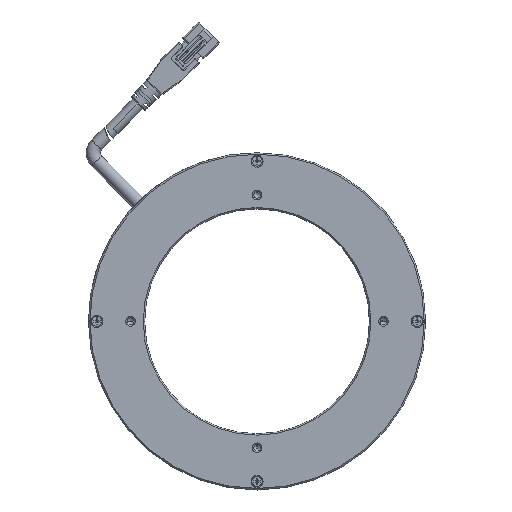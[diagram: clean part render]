
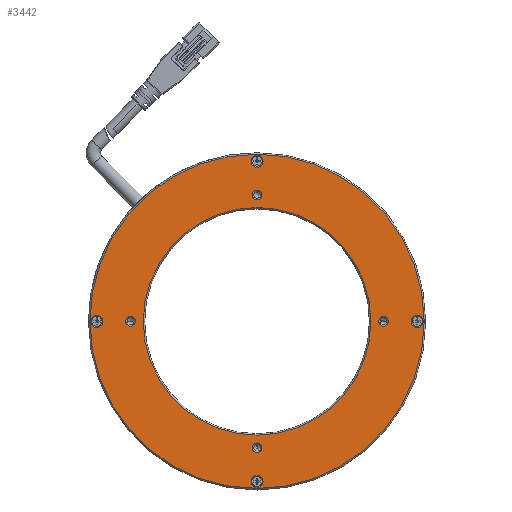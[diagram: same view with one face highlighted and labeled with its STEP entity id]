
A CAD part, top view. The second image highlights one B-rep face of the part: STEP entity #3442.
In plain terms, the highlighted planar face has unit normal (0, 0, 1).
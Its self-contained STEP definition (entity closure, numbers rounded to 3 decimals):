
#323=CARTESIAN_POINT('',(0.,0.,2.));
#324=DIRECTION('',(0.,0.,-1.));
#325=DIRECTION('',(-1.,0.,0.));
#326=AXIS2_PLACEMENT_3D('',#323,#324,#325);
#328=CARTESIAN_POINT('',(0.,0.,2.));
#329=DIRECTION('',(0.,0.,-1.));
#330=DIRECTION('',(1.,0.,0.));
#331=AXIS2_PLACEMENT_3D('',#328,#329,#330);
#333=CARTESIAN_POINT('',(45.,0.,2.));
#334=DIRECTION('',(0.,0.,-1.));
#335=DIRECTION('',(-1.,0.,0.));
#336=AXIS2_PLACEMENT_3D('',#333,#334,#335);
#338=CARTESIAN_POINT('',(45.,0.,2.));
#339=DIRECTION('',(0.,0.,-1.));
#340=DIRECTION('',(1.,0.,0.));
#341=AXIS2_PLACEMENT_3D('',#338,#339,#340);
#343=CARTESIAN_POINT('',(0.,-45.,2.));
#344=DIRECTION('',(0.,0.,-1.));
#345=DIRECTION('',(0.,1.,0.));
#346=AXIS2_PLACEMENT_3D('',#343,#344,#345);
#348=CARTESIAN_POINT('',(0.,-45.,2.));
#349=DIRECTION('',(0.,0.,-1.));
#350=DIRECTION('',(0.,-1.,0.));
#351=AXIS2_PLACEMENT_3D('',#348,#349,#350);
#353=CARTESIAN_POINT('',(-45.,0.,2.));
#354=DIRECTION('',(0.,0.,-1.));
#355=DIRECTION('',(1.,0.,0.));
#356=AXIS2_PLACEMENT_3D('',#353,#354,#355);
#358=CARTESIAN_POINT('',(-45.,0.,2.));
#359=DIRECTION('',(0.,0.,-1.));
#360=DIRECTION('',(-1.,0.,0.));
#361=AXIS2_PLACEMENT_3D('',#358,#359,#360);
#363=CARTESIAN_POINT('',(0.,45.,2.));
#364=DIRECTION('',(0.,0.,-1.));
#365=DIRECTION('',(0.,-1.,0.));
#366=AXIS2_PLACEMENT_3D('',#363,#364,#365);
#368=CARTESIAN_POINT('',(0.,45.,2.));
#369=DIRECTION('',(0.,0.,-1.));
#370=DIRECTION('',(0.,1.,0.));
#371=AXIS2_PLACEMENT_3D('',#368,#369,#370);
#373=CARTESIAN_POINT('',(-57.,0.,2.));
#374=DIRECTION('',(0.,0.,-1.));
#375=DIRECTION('',(-1.,0.,0.));
#376=AXIS2_PLACEMENT_3D('',#373,#374,#375);
#378=CARTESIAN_POINT('',(-57.,0.,2.));
#379=DIRECTION('',(0.,0.,-1.));
#380=DIRECTION('',(1.,0.,0.));
#381=AXIS2_PLACEMENT_3D('',#378,#379,#380);
#383=CARTESIAN_POINT('',(0.,57.,2.));
#384=DIRECTION('',(0.,0.,-1.));
#385=DIRECTION('',(0.,1.,0.));
#386=AXIS2_PLACEMENT_3D('',#383,#384,#385);
#388=CARTESIAN_POINT('',(0.,57.,2.));
#389=DIRECTION('',(0.,0.,-1.));
#390=DIRECTION('',(0.,-1.,0.));
#391=AXIS2_PLACEMENT_3D('',#388,#389,#390);
#393=CARTESIAN_POINT('',(57.,0.,2.));
#394=DIRECTION('',(0.,0.,-1.));
#395=DIRECTION('',(1.,0.,0.));
#396=AXIS2_PLACEMENT_3D('',#393,#394,#395);
#398=CARTESIAN_POINT('',(57.,0.,2.));
#399=DIRECTION('',(0.,0.,-1.));
#400=DIRECTION('',(-1.,0.,0.));
#401=AXIS2_PLACEMENT_3D('',#398,#399,#400);
#403=CARTESIAN_POINT('',(0.,-57.,2.));
#404=DIRECTION('',(0.,0.,-1.));
#405=DIRECTION('',(0.,-1.,0.));
#406=AXIS2_PLACEMENT_3D('',#403,#404,#405);
#408=CARTESIAN_POINT('',(0.,-57.,2.));
#409=DIRECTION('',(0.,0.,-1.));
#410=DIRECTION('',(0.,1.,0.));
#411=AXIS2_PLACEMENT_3D('',#408,#409,#410);
#413=CARTESIAN_POINT('',(0.,0.,2.));
#414=DIRECTION('',(0.,0.,1.));
#415=DIRECTION('',(1.,0.,0.));
#416=AXIS2_PLACEMENT_3D('',#413,#414,#415);
#418=CARTESIAN_POINT('',(0.,0.,2.));
#419=DIRECTION('',(0.,0.,1.));
#420=DIRECTION('',(-1.,0.,0.));
#421=AXIS2_PLACEMENT_3D('',#418,#419,#420);
#2372=CARTESIAN_POINT('',(-59.5,0.,2.));
#2373=CARTESIAN_POINT('',(59.5,0.,2.));
#2374=VERTEX_POINT('',#2372);
#2375=VERTEX_POINT('',#2373);
#2376=CARTESIAN_POINT('',(0.,-54.85,2.));
#2377=CARTESIAN_POINT('',(0.,-59.15,2.));
#2378=VERTEX_POINT('',#2376);
#2379=VERTEX_POINT('',#2377);
#2380=CARTESIAN_POINT('',(54.85,0.,2.));
#2381=CARTESIAN_POINT('',(59.15,0.,2.));
#2382=VERTEX_POINT('',#2380);
#2383=VERTEX_POINT('',#2381);
#2384=CARTESIAN_POINT('',(0.,54.85,2.));
#2385=CARTESIAN_POINT('',(0.,59.15,2.));
#2386=VERTEX_POINT('',#2384);
#2387=VERTEX_POINT('',#2385);
#2388=CARTESIAN_POINT('',(-54.85,0.,2.));
#2389=CARTESIAN_POINT('',(-59.15,0.,2.));
#2390=VERTEX_POINT('',#2388);
#2391=VERTEX_POINT('',#2389);
#2392=CARTESIAN_POINT('',(0.,46.7,2.));
#2393=CARTESIAN_POINT('',(0.,43.3,2.));
#2394=VERTEX_POINT('',#2392);
#2395=VERTEX_POINT('',#2393);
#2396=CARTESIAN_POINT('',(-46.7,0.,2.));
#2397=CARTESIAN_POINT('',(-43.3,0.,2.));
#2398=VERTEX_POINT('',#2396);
#2399=VERTEX_POINT('',#2397);
#2400=CARTESIAN_POINT('',(0.,-46.7,2.));
#2401=CARTESIAN_POINT('',(0.,-43.3,2.));
#2402=VERTEX_POINT('',#2400);
#2403=VERTEX_POINT('',#2401);
#2404=CARTESIAN_POINT('',(46.7,0.,2.));
#2405=CARTESIAN_POINT('',(43.3,0.,2.));
#2406=VERTEX_POINT('',#2404);
#2407=VERTEX_POINT('',#2405);
#2408=CARTESIAN_POINT('',(40.5,0.,2.));
#2409=CARTESIAN_POINT('',(-40.5,0.,2.));
#2410=VERTEX_POINT('',#2408);
#2411=VERTEX_POINT('',#2409);
#3379=CARTESIAN_POINT('',(0.,0.,2.));
#3380=DIRECTION('',(0.,0.,1.));
#3381=DIRECTION('',(-1.,0.,0.));
#3382=AXIS2_PLACEMENT_3D('',#3379,#3380,#3381);
#3383=PLANE('',#3382);
#3385=ORIENTED_EDGE('',*,*,#3384,.F.);
#3387=ORIENTED_EDGE('',*,*,#3386,.F.);
#3388=EDGE_LOOP('',(#3385,#3387));
#3389=FACE_OUTER_BOUND('',#3388,.F.);
#3391=ORIENTED_EDGE('',*,*,#3390,.F.);
#3393=ORIENTED_EDGE('',*,*,#3392,.F.);
#3394=EDGE_LOOP('',(#3391,#3393));
#3395=FACE_BOUND('',#3394,.F.);
#3397=ORIENTED_EDGE('',*,*,#3396,.F.);
#3399=ORIENTED_EDGE('',*,*,#3398,.F.);
#3400=EDGE_LOOP('',(#3397,#3399));
#3401=FACE_BOUND('',#3400,.F.);
#3403=ORIENTED_EDGE('',*,*,#3402,.F.);
#3405=ORIENTED_EDGE('',*,*,#3404,.F.);
#3406=EDGE_LOOP('',(#3403,#3405));
#3407=FACE_BOUND('',#3406,.F.);
#3409=ORIENTED_EDGE('',*,*,#3408,.F.);
#3411=ORIENTED_EDGE('',*,*,#3410,.F.);
#3412=EDGE_LOOP('',(#3409,#3411));
#3413=FACE_BOUND('',#3412,.F.);
#3415=ORIENTED_EDGE('',*,*,#3414,.F.);
#3417=ORIENTED_EDGE('',*,*,#3416,.F.);
#3418=EDGE_LOOP('',(#3415,#3417));
#3419=FACE_BOUND('',#3418,.F.);
#3420=ORIENTED_EDGE('',*,*,#3344,.F.);
#3421=ORIENTED_EDGE('',*,*,#3372,.F.);
#3422=EDGE_LOOP('',(#3420,#3421));
#3423=FACE_BOUND('',#3422,.F.);
#3425=ORIENTED_EDGE('',*,*,#3424,.F.);
#3427=ORIENTED_EDGE('',*,*,#3426,.F.);
#3428=EDGE_LOOP('',(#3425,#3427));
#3429=FACE_BOUND('',#3428,.F.);
#3431=ORIENTED_EDGE('',*,*,#3430,.F.);
#3433=ORIENTED_EDGE('',*,*,#3432,.F.);
#3434=EDGE_LOOP('',(#3431,#3433));
#3435=FACE_BOUND('',#3434,.F.);
#3437=ORIENTED_EDGE('',*,*,#3436,.F.);
#3439=ORIENTED_EDGE('',*,*,#3438,.F.);
#3440=EDGE_LOOP('',(#3437,#3439));
#3441=FACE_BOUND('',#3440,.F.);
#3442=ADVANCED_FACE('',(#3389,#3395,#3401,#3407,#3413,#3419,#3423,#3429,#3435,
#3441),#3383,.T.);
#327=CIRCLE('',#326,40.5);
#332=CIRCLE('',#331,40.5);
#337=CIRCLE('',#336,1.7);
#342=CIRCLE('',#341,1.7);
#347=CIRCLE('',#346,1.7);
#352=CIRCLE('',#351,1.7);
#357=CIRCLE('',#356,1.7);
#362=CIRCLE('',#361,1.7);
#367=CIRCLE('',#366,1.7);
#372=CIRCLE('',#371,1.7);
#377=CIRCLE('',#376,2.15);
#382=CIRCLE('',#381,2.15);
#387=CIRCLE('',#386,2.15);
#392=CIRCLE('',#391,2.15);
#397=CIRCLE('',#396,2.15);
#402=CIRCLE('',#401,2.15);
#407=CIRCLE('',#406,2.15);
#412=CIRCLE('',#411,2.15);
#417=CIRCLE('',#416,59.5);
#422=CIRCLE('',#421,59.5);
#3344=EDGE_CURVE('',#2387,#2386,#387,.T.);
#3372=EDGE_CURVE('',#2386,#2387,#392,.T.);
#3384=EDGE_CURVE('',#2375,#2374,#417,.T.);
#3386=EDGE_CURVE('',#2374,#2375,#422,.T.);
#3390=EDGE_CURVE('',#2407,#2406,#337,.T.);
#3392=EDGE_CURVE('',#2406,#2407,#342,.T.);
#3396=EDGE_CURVE('',#2403,#2402,#347,.T.);
#3398=EDGE_CURVE('',#2402,#2403,#352,.T.);
#3402=EDGE_CURVE('',#2399,#2398,#357,.T.);
#3404=EDGE_CURVE('',#2398,#2399,#362,.T.);
#3408=EDGE_CURVE('',#2395,#2394,#367,.T.);
#3410=EDGE_CURVE('',#2394,#2395,#372,.T.);
#3414=EDGE_CURVE('',#2391,#2390,#377,.T.);
#3416=EDGE_CURVE('',#2390,#2391,#382,.T.);
#3424=EDGE_CURVE('',#2383,#2382,#397,.T.);
#3426=EDGE_CURVE('',#2382,#2383,#402,.T.);
#3430=EDGE_CURVE('',#2379,#2378,#407,.T.);
#3432=EDGE_CURVE('',#2378,#2379,#412,.T.);
#3436=EDGE_CURVE('',#2411,#2410,#327,.T.);
#3438=EDGE_CURVE('',#2410,#2411,#332,.T.);
